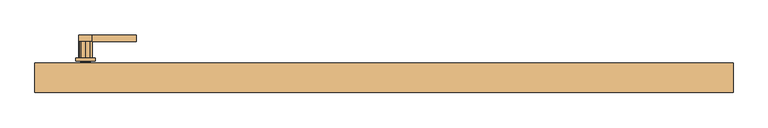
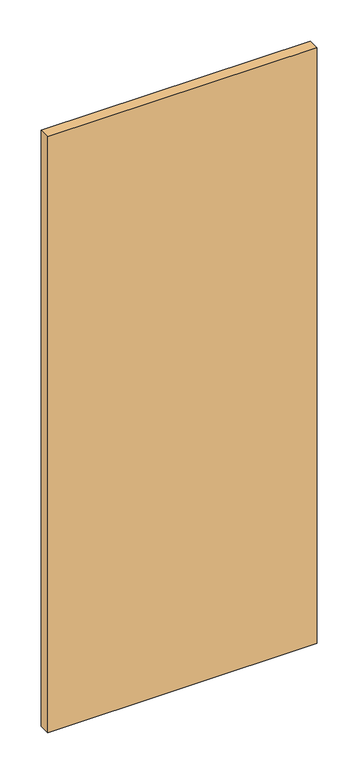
"""IFC4 building model written with IfcOpenShell, lengths in millimetres: door geometry, DoorPanel_Steel_Republic_F : DoorPanel_Steel_Republic_F."""

from ifc_helpers import new_model, si_unit, point, frame, frame_2d, origin, origin_with_axes, place, context, project, spatial, polyline, circle_curve, trimmed, segment, composite_curve, outline, extrude, source, transform, mapped, element, save


def door_93eec490(model_context):
    return source(origin(), model_context, "Body", "SweptSolid", [
        extrude(outline(polyline([(-528.1196353, 22.225), (528.1196353, 22.225), (528.1196353, -22.225), (-528.1196353, -22.225), (-528.1196353, 22.225)])), origin_with_axes(), (0.0, 0.0, 1.0), 2471.0),
        extrude(outline(polyline([(1168.1707758, -374.6951061), (1170.688045, -441.5778869), (1170.688045, -461.5773815), (1158.2366838, -461.5773815), (1158.2366838, -441.5778886), (1160.8335019, -374.6951061), (1168.1707758, -374.6951061)])), frame((0.0, 55.4, 0.0), z_axis=(0.0, 1.0, 0.0), x_axis=(0.0, 0.0, 1.0)), (0.0, 0.0, 1.0), 10.0),
        extrude(outline(composite_curve([segment(polyline([(1174.4613339, -445.2666979), (1174.4613339, -451.5780049), (1174.4613339, -457.8012226), (1172.8227257, -459.936709), (1170.6845568, -461.5773815), (1158.155979, -461.5773815)]), True, "CONTINUOUS"), segment(trimmed(circle_curve(frame_2d((1164.4623666, -451.5763531)), 11.8233284), [point((1158.155979, -461.5773815))], [point((1154.4613374, -457.8827395))], False, "CARTESIAN"), True, "CONTINUOUS"), segment(polyline([(1154.4613374, -457.8827395), (1154.4613374, -451.5747007), (1154.4613374, -445.2699666)]), True, "CONTINUOUS"), segment(trimmed(circle_curve(frame_2d((1164.4623666, -451.5763531)), 11.8233284), [point((1154.4613374, -445.2699666))], [point((1158.1517295, -441.5780055))], False, "CARTESIAN"), True, "CONTINUOUS"), segment(polyline([(1158.1517295, -441.5780055), (1170.7730038, -441.5780055)]), True, "CONTINUOUS"), segment(trimmed(circle_curve(frame_2d((1164.4623666, -451.5763531)), 11.8233284), [point((1170.7730038, -441.5780055))], [point((1174.4613339, -445.2666979))], False, "CARTESIAN"), True, "CONTINUOUS")], self_intersect=False)), frame((0.0, 30.4, 0.0), z_axis=(0.0, 1.0, 0.0), x_axis=(0.0, 0.0, 1.0)), (0.0, 0.0, 1.0), 25.0),
        extrude(outline(polyline([(1194.0277541, -436.5807036), (1194.0277541, -466.5807036), (1064.0277585, -466.5807036), (1064.0277585, -436.5807036), (1194.0277541, -436.5807036)]), holes=[composite_curve([segment(trimmed(circle_curve(frame_2d((1186.4570683, -451.5794913)), 3.0), [point((1186.4570683, -454.5794913))], [point((1186.4570683, -448.5794913))], True, "CARTESIAN"), True, "CONTINUOUS"), segment(trimmed(circle_curve(frame_2d((1186.4570683, -451.5794913)), 3.0), [point((1186.4570683, -448.5794913))], [point((1186.4570683, -454.5794913))], True, "CARTESIAN"), True, "CONTINUOUS")], self_intersect=False), composite_curve([segment(trimmed(circle_curve(frame_2d((1072.5620083, -451.5807036)), 3.0), [point((1072.5620083, -454.5807036))], [point((1072.5620083, -448.5807036))], True, "CARTESIAN"), True, "CONTINUOUS"), segment(trimmed(circle_curve(frame_2d((1072.5620083, -451.5807036)), 3.0), [point((1072.5620083, -448.5807036))], [point((1072.5620083, -454.5807036))], True, "CARTESIAN"), True, "CONTINUOUS")], self_intersect=False), composite_curve([segment(trimmed(circle_curve(frame_2d((1119.9005078, -451.5690314)), 8.0), [point((1127.9005077, -451.5703124))], [point((1112.9729452, -447.5679221))], True, "CARTESIAN"), True, "CONTINUOUS"), segment(polyline([(1112.9729452, -447.5679221), (1100.9359649, -447.6835469), (1099.0062157, -447.7020832)]), True, "CONTINUOUS"), segment(trimmed(circle_curve(frame_2d((1100.0414898, -451.5657871)), 4.0), [point((1099.0062157, -447.7020832))], [point((1096.0414898, -451.5657871))], True, "CARTESIAN"), True, "CONTINUOUS"), segment(trimmed(circle_curve(frame_2d((1100.0414898, -451.5657871)), 4.0), [point((1096.0414898, -451.5657871))], [point((1100.0414898, -455.5657871))], True, "CARTESIAN"), True, "CONTINUOUS"), segment(polyline([(1100.0414898, -455.5657871), (1112.9704325, -455.5657871)]), True, "CONTINUOUS"), segment(trimmed(circle_curve(frame_2d((1119.9005078, -451.5690314)), 8.0), [point((1112.9704325, -455.5657871))], [point((1127.9005077, -451.5703124))], True, "CARTESIAN"), True, "CONTINUOUS")], self_intersect=False)]), frame((0.0, 25.4, 0.0), z_axis=(0.0, 1.0, 0.0), x_axis=(0.0, 0.0, 1.0)), (0.0, 0.0, 1.0), 5.0),
        extrude(outline(composite_curve([segment(polyline([(1117.6073188, -451.052727), (1122.4415485, -450.8403149)]), True, "CONTINUOUS"), segment(trimmed(circle_curve(frame_2d((1123.1708747, -451.5696406)), 1.0314227), [point((1122.4415485, -450.8403149))], [point((1124.2022973, -451.5696406))], False, "CARTESIAN"), True, "CONTINUOUS"), segment(trimmed(circle_curve(frame_2d((1123.1708747, -451.5696406)), 1.0314227), [point((1124.2022973, -451.5696406))], [point((1122.4415487, -452.2989665))], False, "CARTESIAN"), True, "CONTINUOUS"), segment(polyline([(1122.4415487, -452.2989665), (1117.6073188, -452.0849518), (1115.8194555, -452.0849518)]), True, "CONTINUOUS"), segment(trimmed(circle_curve(frame_2d((1115.8194555, -451.5688394)), 0.5161124), [point((1115.8194555, -452.0849518))], [point((1115.8194555, -451.052727))], False, "CARTESIAN"), True, "CONTINUOUS"), segment(polyline([(1115.8194555, -451.052727), (1117.6073188, -451.052727)]), True, "CONTINUOUS")], self_intersect=False)), frame((0.0, 25.4, 0.0), z_axis=(0.0, 1.0, 0.0), x_axis=(0.0, 0.0, 1.0)), (0.0, 0.0, 1.0), 5.0),
    ])


if __name__ == "__main__":
    model = new_model("IFC4")
    model_context = context("Model", 3, world=origin())
    ifc_project = project(units=[si_unit("LENGTHUNIT", "METRE", prefix="MILLI")], contexts=[model_context])
    site = spatial("IfcSite", under=ifc_project)
    building = spatial("IfcBuilding", under=site)
    placement = place(None, origin())
    door_shape = door_93eec490(model_context)
    element("IfcDoor", 1, ObjectType="DoorPanel_Steel_Republic_F : DoorPanel_Steel_Republic_F", at=placement, inside=building, context=model_context, shape_type="MappedRepresentation", body=[
        mapped(door_shape, transform((0.0, 0.0, 0.0), x_axis=(1.0, 0.0, 0.0), y_axis=(0.0, 1.0, 0.0), z_axis=(0.0, 0.0, 1.0))),
    ])
    save(model, "model.ifc")
